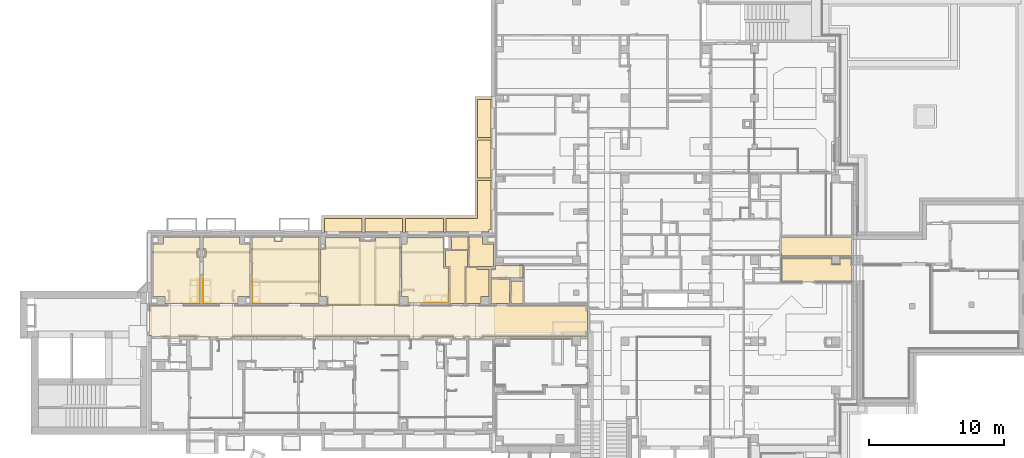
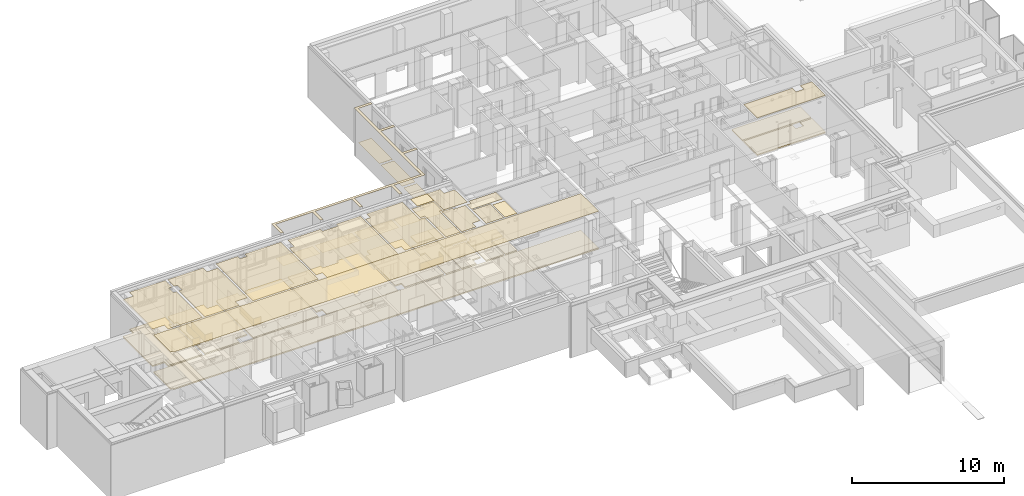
# One storey, part 77 of 84: 40 coverings.
"""IFC4 building model written with IfcOpenShell, lengths in metres."""

from ifc_helpers import new_model, entity, si_unit, converted_unit, derived_unit, frame, frame_2d, origin, origin_with_axes, place, context, subcontext, project, spatial, polyline, rectangle, outline, extrude, material, layer, layer_set, layer_usage, element, save


model = new_model("IFC4")

# Units and contexts
model_context = context("Model", 3, precision=1e-05, world=origin())
body_context = subcontext(model_context, "Body", "Model", "MODEL_VIEW")
ifc_project = project(units=[si_unit("LENGTHUNIT", "METRE"), si_unit("AREAUNIT", "SQUARE_METRE"), si_unit("VOLUMEUNIT", "CUBIC_METRE"), si_unit("MASSUNIT", "GRAM", prefix="KILO"), converted_unit("PLANEANGLEUNIT", "DEGREE", entity("IfcPlaneAngleMeasure", 0.0174532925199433), si_unit("PLANEANGLEUNIT", "RADIAN"), dimensions=[0, 0, 0, 0, 0, 0, 0]), derived_unit("THERMALTRANSMITTANCEUNIT", [(si_unit("POWERUNIT", "WATT"), 1), (si_unit("THERMODYNAMICTEMPERATUREUNIT", "KELVIN"), -1), (si_unit("LENGTHUNIT", "METRE"), -2)]), derived_unit("VOLUMETRICFLOWRATEUNIT", [(si_unit("LENGTHUNIT", "METRE"), 3), (converted_unit("TIMEUNIT", "hour", entity("IfcTimeMeasure", 3600.0), si_unit("TIMEUNIT", "SECOND"), dimensions=[0, 0, 1, 0, 0, 0, 0]), -1), (si_unit("LENGTHUNIT", "METRE"), -1)])], contexts=[model_context])

# Site, building, storey
site_placement = place(None, origin())
site = spatial("IfcSite", under=ifc_project, at=site_placement, Name="3. ASŘ", CompositionType="ELEMENT")
building_placement = place(site_placement, origin())
building = spatial("IfcBuilding", under=site, at=building_placement, Name="Pavilon C", CompositionType="ELEMENT")
storey_placement = place(building_placement, frame((0.0, 0.0, -3.3)))
storey = spatial("IfcBuildingStorey", under=building, at=storey_placement, Name="Půdorys 1.PP", CompositionType="ELEMENT", Elevation=-3.3)

# Coverings
ifc_material_1 = material(Name="KERAMICKÝ OBKLAD")
ifc_layer_1 = layer(ifc_material_1, 0.015)
ifc_layer_set_1 = layer_set([ifc_layer_1])
ifc_layer_usage_1 = layer_usage(ifc_layer_set_1, "AXIS3", "POSITIVE", 0.0)
covering_1_placement = place(storey_placement, frame((2.15, 10.03, 0.85)))
element("IfcCovering", 1, at=covering_1_placement, inside=storey, material=ifc_layer_usage_1, PredefinedType="CLADDING", context=body_context, shape_type="SweptSolid", body=[
    extrude(rectangle(XDim=0.6, YDim=0.57, at=frame_2d((-0.285, -0.3), x_axis=(0.0, -1.0))), frame((0.0, 0.0, 0.0), z_axis=(0.0, -1.0, 0.0), x_axis=(-1.0, 0.0, 0.0)), (0.0, 0.0, 1.0), 0.015),
    extrude(rectangle(XDim=0.6, YDim=1.77, at=frame_2d((-0.885, -0.3), x_axis=(0.0, -1.0))), frame((0.57, 0.0, 0.0), z_axis=(1.0, 0.0, 0.0), x_axis=(0.0, -1.0, 0.0)), (0.0, 0.0, 1.0), 0.015),
])
ifc_material_2 = material(Name="KERAMICKÝ OBKLAD")
ifc_layer_2 = layer(ifc_material_2, 0.015)
ifc_layer_set_2 = layer_set([ifc_layer_2])
ifc_layer_usage_2 = layer_usage(ifc_layer_set_2, "AXIS3", "POSITIVE", 0.0)
covering_2_placement = place(storey_placement, frame((3.13, 10.03, 0.85)))
element("IfcCovering", 2, at=covering_2_placement, inside=storey, material=ifc_layer_usage_2, PredefinedType="CLADDING", context=body_context, shape_type="SweptSolid", body=[
    extrude(rectangle(XDim=0.6, YDim=0.57, at=frame_2d((-0.285, -0.3), x_axis=(0.0, -1.0))), frame((0.57, 0.0, 0.0), z_axis=(0.0, 1.0, 0.0), x_axis=(1.0, 0.0, 0.0)), (0.0, 0.0, 1.0), 0.015),
    extrude(rectangle(XDim=0.6, YDim=1.77, at=frame_2d((-0.885, -0.3), x_axis=(0.0, -1.0))), frame((-4.54747350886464e-16, 0.0, 0.0), z_axis=(1.0, -5.13838814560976e-16, 0.0), x_axis=(-5.13838814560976e-16, -1.0, 0.0)), (0.0, 0.0, 1.0), 0.015),
])
ifc_material_3 = material(Name="KERAMICKÝ OBKLAD")
ifc_layer_3 = layer(ifc_material_3, 0.015)
ifc_layer_set_3 = layer_set([ifc_layer_3])
ifc_layer_usage_3 = layer_usage(ifc_layer_set_3, "AXIS3", "POSITIVE", 0.0)
covering_3_placement = place(storey_placement, frame((6.78000000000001, 10.03, 0.85)))
element("IfcCovering", 3, at=covering_3_placement, inside=storey, material=ifc_layer_usage_3, PredefinedType="CLADDING", context=body_context, shape_type="SweptSolid", body=[
    extrude(rectangle(XDim=0.6, YDim=0.57, at=frame_2d((-0.285, -0.3), x_axis=(0.0, -1.0))), frame((0.57, 0.0, 0.0), z_axis=(0.0, 1.0, 0.0), x_axis=(1.0, 0.0, 0.0)), (0.0, 0.0, 1.0), 0.015),
    extrude(rectangle(XDim=0.6, YDim=1.77, at=frame_2d((-0.885, -0.3), x_axis=(0.0, -1.0))), frame((9.09494701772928e-16, 0.0, 0.0), z_axis=(1.0, -5.13838814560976e-16, 0.0), x_axis=(-5.13838814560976e-16, -1.0, 0.0)), (0.0, 0.0, 1.0), 0.015),
])
ifc_material_4 = material(Name="KERAMICKÝ OBKLAD")
ifc_layer_4 = layer(ifc_material_4, 0.015)
ifc_layer_set_4 = layer_set([ifc_layer_4])
ifc_layer_usage_4 = layer_usage(ifc_layer_set_4, "AXIS3", "POSITIVE", 0.0)
covering_4_placement = place(storey_placement, frame((19.475, 10.055, 0.85)))
element("IfcCovering", 4, at=covering_4_placement, inside=storey, material=ifc_layer_usage_4, PredefinedType="CLADDING", context=body_context, shape_type="SweptSolid", body=[
    extrude(rectangle(XDim=0.6, YDim=0.57, at=frame_2d((-0.285, -0.3), x_axis=(0.0, -1.0))), frame((1.77, 0.57, 0.0), z_axis=(-1.0, 0.0, 0.0), x_axis=(0.0, 1.0, 0.0)), (0.0, 0.0, 1.0), 0.015),
    extrude(rectangle(XDim=0.6, YDim=1.77, at=frame_2d((-0.885, -0.3), x_axis=(0.0, -1.0))), frame((1.77, 0.0, 0.0), z_axis=(0.0, 1.0, 0.0), x_axis=(1.0, 0.0, 0.0)), (0.0, 0.0, 1.0), 0.015),
])
ifc_material_5 = material(Name="SANACE BETONU")
ifc_layer_5 = layer(ifc_material_5, 0.003)
ifc_layer_set_5 = layer_set([ifc_layer_5])
ifc_layer_usage_5 = layer_usage(ifc_layer_set_5, "AXIS3", "POSITIVE", 0.0)
covering_5_placement = place(storey_placement, frame((12.1, 15.305, 0.65)))
element("IfcCovering", 5, at=covering_5_placement, inside=storey, material=ifc_layer_usage_5, PredefinedType="FLOORING", context=body_context, shape_type="SweptSolid", body=[
    extrude(rectangle(XDim=1.0, YDim=2.8, at=frame_2d((1.4, -0.5), x_axis=(0.0, -1.0))), frame((0.0, 1.0, 0.0), z_axis=(0.0, 0.0, 1.0), x_axis=(1.0, 0.0, 0.0)), (0.0, 0.0, 1.0), 0.003),
])
ifc_material_6 = material(Name="SANACE BETONU")
ifc_layer_6 = layer(ifc_material_6, 0.003)
ifc_layer_set_6 = layer_set([ifc_layer_6])
ifc_layer_usage_6 = layer_usage(ifc_layer_set_6, "AXIS3", "POSITIVE", 0.0)
covering_6_placement = place(storey_placement, frame((15.1, 15.305, 0.65)))
element("IfcCovering", 6, at=covering_6_placement, inside=storey, material=ifc_layer_usage_6, PredefinedType="FLOORING", context=body_context, shape_type="SweptSolid", body=[
    extrude(rectangle(XDim=0.999999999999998, YDim=2.8, at=frame_2d((1.4, -0.499999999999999), x_axis=(0.0, -1.0))), frame((1.81898940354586e-15, 0.999999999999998, 0.0), z_axis=(0.0, 0.0, 1.0), x_axis=(1.0, 0.0, 0.0)), (0.0, 0.0, 1.0), 0.003),
])
ifc_material_7 = material(Name="SANACE BETONU")
ifc_layer_7 = layer(ifc_material_7, 0.003)
ifc_layer_set_7 = layer_set([ifc_layer_7])
ifc_layer_usage_7 = layer_usage(ifc_layer_set_7, "AXIS3", "POSITIVE", 0.0)
covering_7_placement = place(storey_placement, frame((18.1, 15.305, 0.65)))
element("IfcCovering", 7, at=covering_7_placement, inside=storey, material=ifc_layer_usage_7, PredefinedType="FLOORING", context=body_context, shape_type="SweptSolid", body=[
    extrude(rectangle(XDim=1.0, YDim=2.8, at=frame_2d((1.4, -0.5), x_axis=(0.0, -1.0))), frame((0.0, 1.0, 0.0), z_axis=(0.0, 0.0, 1.0), x_axis=(1.0, 0.0, 0.0)), (0.0, 0.0, 1.0), 0.003),
])
ifc_material_8 = material(Name="SANACE BETONU")
ifc_layer_8 = layer(ifc_material_8, 0.003)
ifc_layer_set_8 = layer_set([ifc_layer_8])
ifc_layer_usage_8 = layer_usage(ifc_layer_set_8, "AXIS3", "POSITIVE", 0.0)
covering_8_placement = place(storey_placement, frame((21.1, 15.305, 0.65)))
element("IfcCovering", 8, at=covering_8_placement, inside=storey, material=ifc_layer_usage_8, PredefinedType="FLOORING", context=body_context, shape_type="SweptSolid", body=[
    extrude(outline(polyline([(0.0, 0.999999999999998), (0.0, 0.0), (3.175, 0.0), (3.175, 0.17), (3.345, 0.17), (3.345, 3.795), (2.34500000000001, 3.795), (2.34500000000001, 0.999999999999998), (0.0, 0.999999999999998)])), frame((0.0, 1.81898940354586e-15, 0.0), z_axis=(0.0, 0.0, 1.0), x_axis=(1.0, 0.0, 0.0)), (0.0, 0.0, 1.0), 0.003),
])
ifc_material_9 = material(Name="SANACE BETONU")
ifc_layer_9 = layer(ifc_material_9, 0.003)
ifc_layer_set_9 = layer_set([ifc_layer_9])
ifc_layer_usage_9 = layer_usage(ifc_layer_set_9, "AXIS3", "POSITIVE", 0.0)
covering_9_placement = place(storey_placement, frame((23.445, 19.3, 0.65)))
element("IfcCovering", 9, at=covering_9_placement, inside=storey, material=ifc_layer_usage_9, PredefinedType="FLOORING", context=body_context, shape_type="SweptSolid", body=[
    extrude(rectangle(XDim=2.8, YDim=0.999999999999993, at=frame_2d((0.499999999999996, -1.4), x_axis=(0.0, -1.0))), frame((0.0, 2.8, 0.0), z_axis=(0.0, 0.0, 1.0), x_axis=(1.0, 0.0, 0.0)), (0.0, 0.0, 1.0), 0.003),
])
ifc_material_10 = material(Name="SANACE BETONU")
ifc_layer_10 = layer(ifc_material_10, 0.003)
ifc_layer_set_10 = layer_set([ifc_layer_10])
ifc_layer_usage_10 = layer_usage(ifc_layer_set_10, "AXIS3", "POSITIVE", 0.0)
covering_10_placement = place(storey_placement, frame((23.445, 22.3, 0.65)))
element("IfcCovering", 10, at=covering_10_placement, inside=storey, material=ifc_layer_usage_10, PredefinedType="FLOORING", context=body_context, shape_type="SweptSolid", body=[
    extrude(rectangle(XDim=2.8, YDim=0.999999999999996, at=frame_2d((0.499999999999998, -1.4), x_axis=(0.0, -1.0))), frame((3.63797880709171e-15, 2.8, 0.0), z_axis=(0.0, 0.0, 1.0), x_axis=(1.0, 0.0, 0.0)), (0.0, 0.0, 1.0), 0.003),
])
ifc_material_11 = material(Name="SANACE BETONU")
ifc_layer_11 = layer(ifc_material_11, 0.003)
ifc_layer_set_11 = layer_set([ifc_layer_11])
ifc_layer_usage_11 = layer_usage(ifc_layer_set_11, "AXIS3", "POSITIVE", 0.0)
covering_11_placement = place(storey_placement, frame((11.9, 15.245, 3.38)))
element("IfcCovering", 11, at=covering_11_placement, inside=storey, material=ifc_layer_usage_11, PredefinedType="FLOORING", context=body_context, shape_type="SweptSolid", body=[
    extrude(outline(polyline([(0.0, 3.63797880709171e-15), (0.2, 3.63797880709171e-15), (0.2, 1.06), (3.0, 1.06), (3.0, 1.81898940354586e-15), (3.2, 1.81898940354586e-15), (3.2, 1.06), (6.0, 1.06), (6.0, 1.81898940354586e-15), (6.2, 1.81898940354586e-15), (6.2, 1.06), (9.0, 1.06), (9.0, 0.0), (9.2, 0.0), (9.2, 1.06), (11.545, 1.06), (11.545, 3.855), (12.605, 3.855), (12.605, 4.055), (11.545, 4.055), (11.545, 6.855), (12.605, 6.855), (12.605, 7.055), (11.545, 7.055), (11.545, 9.855), (12.605, 9.855), (12.605, 10.055), (11.345, 10.055), (11.345, 1.26), (0.0, 1.26), (0.0, 3.63797880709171e-15)])), frame((0.0, 1.81898940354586e-15, 0.0), z_axis=(0.0, 0.0, 1.0), x_axis=(1.0, 0.0, 0.0)), (0.0, 0.0, 1.0), 0.003),
])

# Space
space_1_placement = place(storey_placement, frame((-0.874999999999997, 7.525, -0.1)))
space_1 = spatial("IfcSpace", under=storey, at=space_1_placement, Name="-1.34", CompositionType="ELEMENT")

# Coverings
ifc_material_12 = material()
ifc_layer_12 = layer(ifc_material_12, 0.095)
ifc_material_13 = material(Name="PŘÍRODNÍ LINOLEUM")
ifc_layer_13 = layer(ifc_material_13, 0.005)
ifc_layer_set_12 = layer_set([ifc_layer_12, ifc_layer_13])
ifc_layer_usage_12 = layer_usage(ifc_layer_set_12, "AXIS3", "POSITIVE", 0.0)
covering_12_placement = place(space_1_placement, frame((2.27373675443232e-16, -9.09494701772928e-16, 0.0)))
element("IfcCovering", 12, at=covering_12_placement, inside=space_1, material=ifc_layer_usage_12, PredefinedType="FLOORING", context=body_context, shape_type="SweptSolid", body=[
    extrude(outline(polyline([(0.0, 2.35), (0.0, 0.100000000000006), (0.175, 0.100000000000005), (0.175, 7.27595761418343e-15), (32.45, 0.0), (32.45, 2.35), (0.0, 2.35)])), frame((0.0, 9.09494701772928e-16, 0.0), z_axis=(0.0, 0.0, 1.0), x_axis=(1.0, 0.0, 0.0)), (0.0, 0.0, 1.0), 0.1),
])
ifc_material_14 = material(Name="RASTR 1")
ifc_layer_14 = layer(ifc_material_14, 0.03)
ifc_layer_set_13 = layer_set([ifc_layer_14])
ifc_layer_usage_13 = layer_usage(ifc_layer_set_13, "AXIS3", "POSITIVE", 0.0)
covering_13_placement = place(space_1_placement, frame((2.27373675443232e-16, -9.09494701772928e-16, 3.05)))
element("IfcCovering", 13, at=covering_13_placement, inside=space_1, material=ifc_layer_usage_13, PredefinedType="CEILING", context=body_context, shape_type="SweptSolid", body=[
    extrude(outline(polyline([(0.0, 2.25), (0.0, 0.0), (32.45, 0.0), (32.45, 2.35), (0.175, 2.35), (0.175, 2.25), (0.0, 2.25)])), frame((0.0, 2.35, 0.0), z_axis=(0.0, 0.0, -1.0), x_axis=(1.0, 0.0, 0.0)), (0.0, 0.0, 1.0), 0.03),
])

# Space
space_2_placement = place(storey_placement, frame((-0.599999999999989, 10.0, -0.1)))
space_2 = spatial("IfcSpace", under=storey, at=space_2_placement, Name="-1.35", CompositionType="ELEMENT")

# Coverings
ifc_material_15 = material()
ifc_layer_15 = layer(ifc_material_15, 0.095)
ifc_material_16 = material(Name="ELEKTROSTATICKÝ VINYL")
ifc_layer_16 = layer(ifc_material_16, 0.005)
ifc_layer_set_14 = layer_set([ifc_layer_15, ifc_layer_16])
ifc_layer_usage_14 = layer_usage(ifc_layer_set_14, "AXIS3", "POSITIVE", 0.0)
covering_14_placement = place(space_2_placement, origin())
element("IfcCovering", 14, at=covering_14_placement, inside=space_2, material=ifc_layer_usage_14, PredefinedType="FLOORING", context=body_context, shape_type="SweptSolid", body=[
    extrude(outline(polyline([(0.799999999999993, 4.9), (0.799999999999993, 4.4), (2.27373675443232e-16, 4.4), (0.0, 0.500000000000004), (0.9, 0.500000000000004), (0.9, 0.0), (3.49999999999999, 0.0), (3.49999999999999, 3.43), (3.27499999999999, 3.43), (3.27499999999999, 4.03), (3.49999999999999, 4.03), (3.49999999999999, 4.9), (0.799999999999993, 4.9)])), origin_with_axes(), (0.0, 0.0, 1.0), 0.1),
])
ifc_material_17 = material(Name="RASTR 3")
ifc_layer_17 = layer(ifc_material_17, 0.03)
ifc_layer_set_15 = layer_set([ifc_layer_17])
ifc_layer_usage_15 = layer_usage(ifc_layer_set_15, "AXIS3", "POSITIVE", 0.0)
covering_15_placement = place(space_2_placement, frame((0.0, 0.0, 3.05)))
element("IfcCovering", 15, at=covering_15_placement, inside=space_2, material=ifc_layer_usage_15, PredefinedType="CEILING", context=body_context, shape_type="SweptSolid", body=[
    extrude(outline(polyline([(0.799999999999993, 0.5), (0.799999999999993, 0.0), (3.49999999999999, 0.0), (3.49999999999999, 0.870000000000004), (3.27499999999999, 0.870000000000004), (3.27499999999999, 1.47), (3.49999999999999, 1.47), (3.49999999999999, 4.9), (0.9, 4.9), (0.9, 4.4), (0.0, 4.4), (2.27373675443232e-16, 0.5), (0.799999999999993, 0.5)])), frame((0.0, 4.9, 0.0), z_axis=(0.0, 0.0, -1.0), x_axis=(1.0, 0.0, 0.0)), (0.0, 0.0, 1.0), 0.03),
])

# Space
space_3_placement = place(storey_placement, frame((17.825, 10.025, -0.1)))
space_3 = spatial("IfcSpace", under=storey, at=space_3_placement, Name="-1.39", CompositionType="ELEMENT")

# Coverings
ifc_material_18 = material()
ifc_layer_18 = layer(ifc_material_18, 0.095)
ifc_material_19 = material(Name="ELEKTROSTATICKÝ VINYL")
ifc_layer_19 = layer(ifc_material_19, 0.005)
ifc_layer_set_16 = layer_set([ifc_layer_18, ifc_layer_19])
ifc_layer_usage_16 = layer_usage(ifc_layer_set_16, "AXIS3", "POSITIVE", 0.0)
covering_16_placement = place(space_3_placement, origin())
element("IfcCovering", 16, at=covering_16_placement, inside=space_3, material=ifc_layer_usage_16, PredefinedType="FLOORING", context=body_context, shape_type="SweptSolid", body=[
    extrude(outline(polyline([(0.375, 4.37500000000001), (0.0, 4.37500000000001), (0.0, 0.475), (0.475000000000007, 0.475), (0.475000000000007, 0.0), (3.45, 0.0), (3.45, 2.6), (3.075, 2.6), (3.075, 4.85000000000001), (0.375, 4.85000000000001), (0.375, 4.37500000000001)])), origin_with_axes(), (0.0, 0.0, 1.0), 0.1),
])
ifc_material_20 = material(Name="RASTR 3")
ifc_layer_20 = layer(ifc_material_20, 0.03)
ifc_layer_set_17 = layer_set([ifc_layer_20])
ifc_layer_usage_17 = layer_usage(ifc_layer_set_17, "AXIS3", "POSITIVE", 0.0)
covering_17_placement = place(space_3_placement, frame((0.0, 0.0, 3.05)))
element("IfcCovering", 17, at=covering_17_placement, inside=space_3, material=ifc_layer_usage_17, PredefinedType="CEILING", context=body_context, shape_type="SweptSolid", body=[
    extrude(outline(polyline([(0.0, 0.475), (0.375, 0.475), (0.375, 0.0), (3.075, 0.0), (3.075, 2.25000000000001), (3.45, 2.25000000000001), (3.45, 4.85000000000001), (0.475000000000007, 4.85000000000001), (0.475000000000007, 4.37500000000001), (0.0, 4.37500000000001), (0.0, 0.475)])), frame((0.0, 4.85000000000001, 0.0), z_axis=(0.0, 0.0, -1.0), x_axis=(1.0, 0.0, 0.0)), (0.0, 0.0, 1.0), 0.03),
])

# Space
space_4_placement = place(storey_placement, frame((21.05, 10.0, -0.1)))
space_4 = spatial("IfcSpace", under=storey, at=space_4_placement, Name="-1.40", CompositionType="ELEMENT")

# Coverings
ifc_material_21 = material()
ifc_layer_21 = layer(ifc_material_21, 0.085)
ifc_material_22 = material(Name="KERAMICKÁ DLAŽBA")
ifc_layer_22 = layer(ifc_material_22, 0.015)
ifc_layer_set_18 = layer_set([ifc_layer_21, ifc_layer_22])
ifc_layer_usage_18 = layer_usage(ifc_layer_set_18, "AXIS3", "POSITIVE", 0.0)
covering_18_placement = place(space_4_placement, origin())
element("IfcCovering", 18, at=covering_18_placement, inside=space_4, material=ifc_layer_usage_18, PredefinedType="FLOORING", context=body_context, shape_type="SweptSolid", body=[
    extrude(outline(polyline([(0.35, 2.75), (0.35, 0.0), (1.45, 0.0), (1.45, 2.75), (1.65, 2.75), (1.65, 3.9), (0.0, 3.9), (0.0, 2.75), (0.35, 2.75)])), origin_with_axes(), (0.0, 0.0, 1.0), 0.1),
])
ifc_material_23 = material(Name="RASTR 2")
ifc_layer_23 = layer(ifc_material_23, 0.03)
ifc_layer_set_19 = layer_set([ifc_layer_23])
ifc_layer_usage_19 = layer_usage(ifc_layer_set_19, "AXIS3", "POSITIVE", 0.0)
covering_19_placement = place(space_4_placement, frame((0.0, 0.0, 3.05)))
element("IfcCovering", 19, at=covering_19_placement, inside=space_4, material=ifc_layer_usage_19, PredefinedType="CEILING", context=body_context, shape_type="SweptSolid", body=[
    extrude(outline(polyline([(0.35, 3.9), (0.35, 1.15), (0.0, 1.15), (0.0, 0.0), (1.65, 0.0), (1.65, 1.15), (1.45, 1.15), (1.45, 3.9), (0.35, 3.9)])), frame((0.0, 3.9, 0.0), z_axis=(0.0, 0.0, -1.0), x_axis=(1.0, 0.0, 0.0)), (0.0, 0.0, 1.0), 0.03),
])

# Space
space_5_placement = place(storey_placement, frame((21.525, 14.0, -0.1)))
space_5 = spatial("IfcSpace", under=storey, at=space_5_placement, Name="-1.41", CompositionType="ELEMENT")

# Coverings
ifc_material_24 = material()
ifc_layer_24 = layer(ifc_material_24, 0.085)
ifc_material_25 = material(Name="KERAMICKÁ DLAŽBA")
ifc_layer_25 = layer(ifc_material_25, 0.015)
ifc_layer_set_20 = layer_set([ifc_layer_24, ifc_layer_25])
ifc_layer_usage_20 = layer_usage(ifc_layer_set_20, "AXIS3", "POSITIVE", 0.0)
covering_20_placement = place(space_5_placement, origin())
element("IfcCovering", 20, at=covering_20_placement, inside=space_5, material=ifc_layer_usage_20, PredefinedType="FLOORING", context=body_context, shape_type="SweptSolid", body=[
    extrude(rectangle(XDim=0.9, YDim=1.275, at=frame_2d((0.6375, -0.45), x_axis=(0.0, -1.0))), frame((0.0, 0.9, 0.0), z_axis=(0.0, 0.0, 1.0), x_axis=(1.0, 0.0, 0.0)), (0.0, 0.0, 1.0), 0.1),
])
ifc_material_26 = material(Name="RASTR 2")
ifc_layer_26 = layer(ifc_material_26, 0.03)
ifc_layer_set_21 = layer_set([ifc_layer_26])
ifc_layer_usage_21 = layer_usage(ifc_layer_set_21, "AXIS3", "POSITIVE", 0.0)
covering_21_placement = place(space_5_placement, frame((0.0, 0.0, 3.05)))
element("IfcCovering", 21, at=covering_21_placement, inside=space_5, material=ifc_layer_usage_21, PredefinedType="CEILING", context=body_context, shape_type="SweptSolid", body=[
    extrude(rectangle(XDim=0.9, YDim=1.275, at=frame_2d((0.6375, -0.45), x_axis=(0.0, -1.0))), frame((0.0, 0.0, 0.0), z_axis=(0.0, 0.0, -1.0), x_axis=(1.0, 0.0, 0.0)), (0.0, 0.0, 1.0), 0.03),
])

# Space
space_6_placement = place(storey_placement, frame((22.6, 10.0, -0.1)))
space_6 = spatial("IfcSpace", under=storey, at=space_6_placement, Name="-1.42", CompositionType="ELEMENT")

# Coverings
ifc_material_27 = material()
ifc_layer_27 = layer(ifc_material_27, 0.085)
ifc_material_28 = material(Name="KERAMICKÁ DLAŽBA")
ifc_layer_28 = layer(ifc_material_28, 0.015)
ifc_layer_set_22 = layer_set([ifc_layer_27, ifc_layer_28])
ifc_layer_usage_22 = layer_usage(ifc_layer_set_22, "AXIS3", "POSITIVE", 0.0)
covering_22_placement = place(space_6_placement, origin())
element("IfcCovering", 22, at=covering_22_placement, inside=space_6, material=ifc_layer_usage_22, PredefinedType="FLOORING", context=body_context, shape_type="SweptSolid", body=[
    extrude(outline(polyline([(0.8, 2.65), (0.0, 2.65), (0.0, 0.0), (1.1, 0.0), (1.1, 0.5), (1.7, 0.5), (1.7, 2.5), (0.8, 2.5), (0.8, 2.65)])), origin_with_axes(), (0.0, 0.0, 1.0), 0.1),
])
ifc_material_29 = material(Name="RASTR 2")
ifc_layer_29 = layer(ifc_material_29, 0.03)
ifc_layer_set_23 = layer_set([ifc_layer_29])
ifc_layer_usage_23 = layer_usage(ifc_layer_set_23, "AXIS3", "POSITIVE", 0.0)
covering_23_placement = place(space_6_placement, frame((0.0, 0.0, 3.05)))
element("IfcCovering", 23, at=covering_23_placement, inside=space_6, material=ifc_layer_usage_23, PredefinedType="CEILING", context=body_context, shape_type="SweptSolid", body=[
    extrude(outline(polyline([(0.0, 0.0), (0.8, 0.0), (0.8, 0.15), (1.7, 0.15), (1.7, 2.15), (1.1, 2.15), (1.1, 2.65), (0.0, 2.65), (0.0, 0.0)])), frame((0.0, 2.65, 0.0), z_axis=(0.0, 0.0, -1.0), x_axis=(1.0, 0.0, 0.0)), (0.0, 0.0, 1.0), 0.03),
])

# Space
space_7_placement = place(storey_placement, frame((24.45, 10.0, -0.1)))
space_7 = spatial("IfcSpace", under=storey, at=space_7_placement, Name="-1.43", CompositionType="ELEMENT")

# Coverings
ifc_material_30 = material()
ifc_layer_30 = layer(ifc_material_30, 0.085)
ifc_material_31 = material(Name="KERAMICKÁ DLAŽBA")
ifc_layer_31 = layer(ifc_material_31, 0.015)
ifc_layer_set_24 = layer_set([ifc_layer_30, ifc_layer_31])
ifc_layer_usage_24 = layer_usage(ifc_layer_set_24, "AXIS3", "POSITIVE", 0.0)
covering_24_placement = place(space_7_placement, origin())
element("IfcCovering", 24, at=covering_24_placement, inside=space_7, material=ifc_layer_usage_24, PredefinedType="FLOORING", context=body_context, shape_type="SweptSolid", body=[
    extrude(rectangle(XDim=1.35, YDim=1.8, at=frame_2d((-0.675, -0.9), x_axis=(-1.0, 0.0))), frame((1.35, 1.8, 0.0), z_axis=(0.0, 0.0, 1.0), x_axis=(1.0, 0.0, 0.0)), (0.0, 0.0, 1.0), 0.1),
])
ifc_material_32 = material(Name="RASTR 2")
ifc_layer_32 = layer(ifc_material_32, 0.03)
ifc_layer_set_25 = layer_set([ifc_layer_32])
ifc_layer_usage_25 = layer_usage(ifc_layer_set_25, "AXIS3", "POSITIVE", 0.0)
covering_25_placement = place(space_7_placement, frame((0.0, 0.0, 3.05)))
element("IfcCovering", 25, at=covering_25_placement, inside=space_7, material=ifc_layer_usage_25, PredefinedType="CEILING", context=body_context, shape_type="SweptSolid", body=[
    extrude(rectangle(XDim=1.35, YDim=1.8, at=frame_2d((0.675, 0.9), x_axis=(1.0, 0.0))), frame((0.0, 1.8, 0.0), z_axis=(0.0, 0.0, -1.0), x_axis=(1.0, 0.0, 0.0)), (0.0, 0.0, 1.0), 0.03),
])

# Space
space_8_placement = place(storey_placement, frame((25.9, 10.0, -0.1)))
space_8 = spatial("IfcSpace", under=storey, at=space_8_placement, Name="-1.44", CompositionType="ELEMENT")

# Coverings
ifc_material_33 = material()
ifc_layer_33 = layer(ifc_material_33, 0.085)
ifc_material_34 = material(Name="KERAMICKÁ DLAŽBA")
ifc_layer_34 = layer(ifc_material_34, 0.015)
ifc_layer_set_26 = layer_set([ifc_layer_33, ifc_layer_34])
ifc_layer_usage_26 = layer_usage(ifc_layer_set_26, "AXIS3", "POSITIVE", 0.0)
covering_26_placement = place(space_8_placement, origin())
element("IfcCovering", 26, at=covering_26_placement, inside=space_8, material=ifc_layer_usage_26, PredefinedType="FLOORING", context=body_context, shape_type="SweptSolid", body=[
    extrude(rectangle(XDim=0.9, YDim=1.65, at=frame_2d((-0.45, -0.825), x_axis=(-1.0, 0.0))), frame((0.9, 1.65, 0.0), z_axis=(0.0, 0.0, 1.0), x_axis=(1.0, 0.0, 0.0)), (0.0, 0.0, 1.0), 0.1),
])
ifc_material_35 = material(Name="RASTR 2")
ifc_layer_35 = layer(ifc_material_35, 0.03)
ifc_layer_set_27 = layer_set([ifc_layer_35])
ifc_layer_usage_27 = layer_usage(ifc_layer_set_27, "AXIS3", "POSITIVE", 0.0)
covering_27_placement = place(space_8_placement, frame((0.0, 0.0, 3.05)))
element("IfcCovering", 27, at=covering_27_placement, inside=space_8, material=ifc_layer_usage_27, PredefinedType="CEILING", context=body_context, shape_type="SweptSolid", body=[
    extrude(rectangle(XDim=0.9, YDim=1.65, at=frame_2d((0.45, 0.825), x_axis=(1.0, 0.0))), frame((0.0, 1.65, 0.0), z_axis=(0.0, 0.0, -1.0), x_axis=(1.0, 0.0, 0.0)), (0.0, 0.0, 1.0), 0.03),
])

# Space
space_9_placement = place(storey_placement, frame((24.45, 11.9, -0.1)))
space_9 = spatial("IfcSpace", under=storey, at=space_9_placement, Name="-1.45", CompositionType="ELEMENT")

# Coverings
ifc_material_36 = material()
ifc_layer_36 = layer(ifc_material_36, 0.085)
ifc_material_37 = material(Name="KERAMICKÁ DLAŽBA")
ifc_layer_37 = layer(ifc_material_37, 0.015)
ifc_layer_set_28 = layer_set([ifc_layer_36, ifc_layer_37])
ifc_layer_usage_28 = layer_usage(ifc_layer_set_28, "AXIS3", "POSITIVE", 0.0)
covering_28_placement = place(space_9_placement, origin())
element("IfcCovering", 28, at=covering_28_placement, inside=space_9, material=ifc_layer_usage_28, PredefinedType="FLOORING", context=body_context, shape_type="SweptSolid", body=[
    extrude(outline(polyline([(0.300000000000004, 0.6), (0.0, 0.6), (0.0, 0.0), (2.35, 0.0), (2.35, 0.9), (0.300000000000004, 0.899999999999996), (0.300000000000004, 0.6)])), origin_with_axes(), (0.0, 0.0, 1.0), 0.1),
])
ifc_material_38 = material(Name="RASTR 2")
ifc_layer_38 = layer(ifc_material_38, 0.03)
ifc_layer_set_29 = layer_set([ifc_layer_38])
ifc_layer_usage_29 = layer_usage(ifc_layer_set_29, "AXIS3", "POSITIVE", 0.0)
covering_29_placement = place(space_9_placement, frame((0.0, 0.0, 3.05)))
element("IfcCovering", 29, at=covering_29_placement, inside=space_9, material=ifc_layer_usage_29, PredefinedType="CEILING", context=body_context, shape_type="SweptSolid", body=[
    extrude(outline(polyline([(0.0, 0.3), (0.300000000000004, 0.3), (0.300000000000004, 3.63797880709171e-15), (2.35, 0.0), (2.35, 0.9), (0.0, 0.9), (0.0, 0.3)])), frame((0.0, 0.9, 0.0), z_axis=(0.0, 0.0, -1.0), x_axis=(1.0, 0.0, 0.0)), (0.0, 0.0, 1.0), 0.03),
])

# Space
space_10_placement = place(storey_placement, frame((22.8, 12.75, -0.1)))
space_10 = spatial("IfcSpace", under=storey, at=space_10_placement, Name="-1.41", CompositionType="ELEMENT")

# Coverings
ifc_material_39 = material()
ifc_layer_39 = layer(ifc_material_39, 0.085)
ifc_material_40 = material(Name="KERAMICKÁ DLAŽBA")
ifc_layer_40 = layer(ifc_material_40, 0.015)
ifc_layer_set_30 = layer_set([ifc_layer_39, ifc_layer_40])
ifc_layer_usage_30 = layer_usage(ifc_layer_set_30, "AXIS3", "POSITIVE", 0.0)
covering_30_placement = place(space_10_placement, frame((3.63797880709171e-15, 0.0, 0.0)))
element("IfcCovering", 30, at=covering_30_placement, inside=space_10, material=ifc_layer_usage_30, PredefinedType="FLOORING", context=body_context, shape_type="SweptSolid", body=[
    extrude(outline(polyline([(1.0, 2.15), (0.0, 2.15), (0.0, 0.0), (1.8, 0.0), (1.8, 1.65000000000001), (1.0, 1.65000000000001), (1.0, 2.15)])), frame((-3.63797880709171e-15, 0.0, 0.0), z_axis=(0.0, 0.0, 1.0), x_axis=(1.0, 0.0, 0.0)), (0.0, 0.0, 1.0), 0.1),
])
ifc_material_41 = material(Name="RASTR 2")
ifc_layer_41 = layer(ifc_material_41, 0.03)
ifc_layer_set_31 = layer_set([ifc_layer_41])
ifc_layer_usage_31 = layer_usage(ifc_layer_set_31, "AXIS3", "POSITIVE", 0.0)
covering_31_placement = place(space_10_placement, frame((3.63797880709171e-15, 0.0, 3.05)))
element("IfcCovering", 31, at=covering_31_placement, inside=space_10, material=ifc_layer_usage_31, PredefinedType="CEILING", context=body_context, shape_type="SweptSolid", body=[
    extrude(outline(polyline([(0.0, 0.0), (1.0, 0.0), (1.0, 0.499999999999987), (1.8, 0.499999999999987), (1.8, 2.15), (0.0, 2.15), (0.0, 0.0)])), frame((-3.63797880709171e-15, 2.15, 0.0), z_axis=(0.0, 0.0, -1.0), x_axis=(1.0, 0.0, 0.0)), (0.0, 0.0, 1.0), 0.03),
])

# Space
space_11_placement = place(storey_placement, frame((11.825, 9.875, -0.1)))
space_11 = spatial("IfcSpace", under=storey, at=space_11_placement, Name="-1.38", CompositionType="ELEMENT")

# Coverings
ifc_material_42 = material()
ifc_layer_42 = layer(ifc_material_42, 0.095)
ifc_material_43 = material(Name="PŘÍRODNÍ LINOLEUM")
ifc_layer_43 = layer(ifc_material_43, 0.005)
ifc_layer_set_32 = layer_set([ifc_layer_42, ifc_layer_43])
ifc_layer_usage_32 = layer_usage(ifc_layer_set_32, "AXIS3", "POSITIVE", 0.0)
covering_32_placement = place(space_11_placement, origin())
element("IfcCovering", 32, at=covering_32_placement, inside=space_11, material=ifc_layer_usage_32, PredefinedType="FLOORING", context=body_context, shape_type="SweptSolid", body=[
    extrude(outline(polyline([(2.875, 4.75), (2.875, 5.0), (0.374999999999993, 5.0), (0.374999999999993, 4.15000000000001), (0.0, 4.15000000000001), (0.0, 0.625), (0.475, 0.625), (0.475, 0.0), (5.875, 0.0), (5.875, 5.0), (4.075, 5.0), (4.075, 4.75), (2.875, 4.75)])), origin_with_axes(), (0.0, 0.0, 1.0), 0.1),
])
ifc_material_44 = material(Name="RASTR 1")
ifc_layer_44 = layer(ifc_material_44, 0.03)
ifc_layer_set_33 = layer_set([ifc_layer_44])
ifc_layer_usage_33 = layer_usage(ifc_layer_set_33, "AXIS3", "POSITIVE", 0.0)
covering_33_placement = place(space_11_placement, frame((0.0, 0.0, 3.05)))
element("IfcCovering", 33, at=covering_33_placement, inside=space_11, material=ifc_layer_usage_33, PredefinedType="CEILING", context=body_context, shape_type="SweptSolid", body=[
    extrude(outline(polyline([(2.875, 0.0), (2.875, 0.25), (4.075, 0.25), (4.075, 0.0), (5.875, 0.0), (5.875, 5.0), (0.475, 5.0), (0.475, 4.375), (0.0, 4.375), (0.0, 0.849999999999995), (0.374999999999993, 0.849999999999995), (0.374999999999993, 0.0), (2.875, 0.0)])), frame((0.0, 5.0, 0.0), z_axis=(0.0, 0.0, -1.0), x_axis=(1.0, 0.0, 0.0)), (0.0, 0.0, 1.0), 0.03),
])

# Space
space_12_placement = place(storey_placement, frame((3.09999999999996, 10.0, -0.1)))
space_12 = spatial("IfcSpace", under=storey, at=space_12_placement, Name="-1.36", CompositionType="ELEMENT")

# Coverings
ifc_material_45 = material()
ifc_layer_45 = layer(ifc_material_45, 0.095)
ifc_material_46 = material(Name="ELEKTROSTATICKÝ VINYL")
ifc_layer_46 = layer(ifc_material_46, 0.005)
ifc_layer_set_34 = layer_set([ifc_layer_45, ifc_layer_46])
ifc_layer_usage_34 = layer_usage(ifc_layer_set_34, "AXIS3", "POSITIVE", 0.0)
covering_34_placement = place(space_12_placement, frame((-4.54747350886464e-16, 0.0, 0.0)))
element("IfcCovering", 34, at=covering_34_placement, inside=space_12, material=ifc_layer_usage_34, PredefinedType="FLOORING", context=body_context, shape_type="SweptSolid", body=[
    extrude(outline(polyline([(2.70000000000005, 4.9), (4.50199877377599e-14, 4.9), (4.50199877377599e-14, 4.03), (0.22500000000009, 4.03), (0.225000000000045, 3.43), (0.0, 3.43), (4.4110493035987e-14, 0.0), (2.60000000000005, 0.0), (2.60000000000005, 0.5), (3.50000000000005, 0.5), (3.50000000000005, 4.4), (2.70000000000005, 4.4), (2.70000000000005, 4.9)])), frame((4.54747350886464e-16, 0.0, 0.0), z_axis=(0.0, 0.0, 1.0), x_axis=(1.0, 0.0, 0.0)), (0.0, 0.0, 1.0), 0.1),
])
ifc_material_47 = material(Name="RASTR 3")
ifc_layer_47 = layer(ifc_material_47, 0.03)
ifc_layer_set_35 = layer_set([ifc_layer_47])
ifc_layer_usage_35 = layer_usage(ifc_layer_set_35, "AXIS3", "POSITIVE", 0.0)
covering_35_placement = place(space_12_placement, frame((-4.54747350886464e-16, 0.0, 3.05)))
element("IfcCovering", 35, at=covering_35_placement, inside=space_12, material=ifc_layer_usage_35, PredefinedType="CEILING", context=body_context, shape_type="SweptSolid", body=[
    extrude(outline(polyline([(4.50199877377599e-14, 0.0), (2.70000000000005, 0.0), (2.70000000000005, 0.5), (3.50000000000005, 0.5), (3.50000000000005, 4.4), (2.60000000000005, 4.4), (2.60000000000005, 4.9), (4.4110493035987e-14, 4.9), (0.0, 1.47), (0.225000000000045, 1.47), (0.22500000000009, 0.870000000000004), (4.50199877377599e-14, 0.870000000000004), (4.50199877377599e-14, 0.0)])), frame((4.54747350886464e-16, 4.9, 0.0), z_axis=(0.0, 0.0, -1.0), x_axis=(1.0, 0.0, 0.0)), (0.0, 0.0, 1.0), 0.03),
])

# Space
space_13_placement = place(storey_placement, frame((6.75, 10.0, -0.1)))
space_13 = spatial("IfcSpace", under=storey, at=space_13_placement, Name="-1.37", CompositionType="ELEMENT")

# Coverings
ifc_material_48 = material()
ifc_layer_48 = layer(ifc_material_48, 0.095)
ifc_material_49 = material(Name="ELEKTROSTATICKÝ VINYL")
ifc_layer_49 = layer(ifc_material_49, 0.005)
ifc_layer_set_36 = layer_set([ifc_layer_48, ifc_layer_49])
ifc_layer_usage_36 = layer_usage(ifc_layer_set_36, "AXIS3", "POSITIVE", 0.0)
covering_36_placement = place(space_13_placement, frame((-9.09494701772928e-16, 0.0, 0.0)))
element("IfcCovering", 36, at=covering_36_placement, inside=space_13, material=ifc_layer_usage_36, PredefinedType="FLOORING", context=body_context, shape_type="SweptSolid", body=[
    extrude(outline(polyline([(1.65000000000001, 4.9), (0.0, 4.9), (0.0, 0.0), (4.95000000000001, 0.0), (4.95000000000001, 4.9), (2.20000000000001, 4.9), (2.20000000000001, 4.59999999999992), (1.65000000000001, 4.59999999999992), (1.65000000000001, 4.9)])), frame((9.09494701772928e-16, 0.0, 0.0), z_axis=(0.0, 0.0, 1.0), x_axis=(1.0, 0.0, 0.0)), (0.0, 0.0, 1.0), 0.1),
])
ifc_material_50 = material(Name="RASTR 3")
ifc_layer_50 = layer(ifc_material_50, 0.03)
ifc_layer_set_37 = layer_set([ifc_layer_50])
ifc_layer_usage_37 = layer_usage(ifc_layer_set_37, "AXIS3", "POSITIVE", 0.0)
covering_37_placement = place(space_13_placement, frame((-9.09494701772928e-16, 0.0, 3.05)))
element("IfcCovering", 37, at=covering_37_placement, inside=space_13, material=ifc_layer_usage_37, PredefinedType="CEILING", context=body_context, shape_type="SweptSolid", body=[
    extrude(outline(polyline([(0.0, 0.0), (1.65000000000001, 0.0), (1.65000000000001, 0.300000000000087), (2.20000000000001, 0.300000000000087), (2.20000000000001, 0.0), (4.95000000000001, 0.0), (4.95000000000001, 4.9), (0.0, 4.9), (0.0, 0.0)])), frame((9.09494701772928e-16, 4.9, 0.0), z_axis=(0.0, 0.0, -1.0), x_axis=(1.0, 0.0, 0.0)), (0.0, 0.0, 1.0), 0.03),
])

# Space
space_14_placement = place(storey_placement, frame((45.95, 13.5, -0.1)))
space_14 = spatial("IfcSpace", under=storey, at=space_14_placement, Name="-1.58", CompositionType="ELEMENT")

# Covering
ifc_material_51 = material()
ifc_layer_51 = layer(ifc_material_51, 0.095)
ifc_material_52 = material(Name="PŘÍRODNÍ LINOLEUM")
ifc_layer_52 = layer(ifc_material_52, 0.005)
ifc_layer_set_38 = layer_set([ifc_layer_51, ifc_layer_52])
ifc_layer_usage_38 = layer_usage(ifc_layer_set_38, "AXIS3", "POSITIVE", 0.0)
covering_38_placement = place(space_14_placement, origin())
element("IfcCovering", 38, at=covering_38_placement, inside=space_14, material=ifc_layer_usage_38, Name="I.P1", PredefinedType="FLOORING", context=body_context, shape_type="SweptSolid", body=[
    extrude(rectangle(XDim=5.2, YDim=1.425, at=frame_2d((2.6, 0.7125), x_axis=(1.0, 0.0))), origin_with_axes(), (0.0, 0.0, 1.0), 0.1),
])

# Space
space_15_placement = place(storey_placement, frame((45.95, 11.575, -0.1)))
space_15 = spatial("IfcSpace", under=storey, at=space_15_placement, Name="-1.64", CompositionType="ELEMENT")

# Coverings
ifc_material_53 = material()
ifc_layer_53 = layer(ifc_material_53, 0.097)
ifc_material_54 = material(Name="EPOXIDOVÁ STĚRKA")
ifc_layer_54 = layer(ifc_material_54, 0.003)
ifc_layer_set_39 = layer_set([ifc_layer_53, ifc_layer_54])
ifc_layer_usage_39 = layer_usage(ifc_layer_set_39, "AXIS3", "POSITIVE", 0.0)
covering_39_placement = place(space_15_placement, origin())
element("IfcCovering", 39, at=covering_39_placement, inside=space_15, material=ifc_layer_usage_39, PredefinedType="FLOORING", context=body_context, shape_type="SweptSolid", body=[
    extrude(outline(polyline([(3.7, 1.8), (0.0, 1.8), (0.0, 0.0), (5.2, 0.0), (5.2, 1.8), (4.3, 1.8), (4.3, 1.325), (3.7, 1.325), (3.7, 1.8)])), origin_with_axes(), (0.0, 0.0, 1.0), 0.1),
])
ifc_material_55 = material(Name="AKUSTICKÝ OBKLAD")
ifc_layer_55 = layer(ifc_material_55, 0.05)
ifc_layer_set_40 = layer_set([ifc_layer_55])
ifc_layer_usage_40 = layer_usage(ifc_layer_set_40, "AXIS3", "POSITIVE", 0.0)
covering_40_placement = place(space_15_placement, frame((0.0, 0.0, 3.05)))
element("IfcCovering", 40, at=covering_40_placement, inside=space_15, material=ifc_layer_usage_40, PredefinedType="CEILING", context=body_context, shape_type="SweptSolid", body=[
    extrude(outline(polyline([(0.0, 0.0), (3.7, 0.0), (3.7, 0.475), (4.3, 0.475), (4.3, 0.0), (5.2, 0.0), (5.2, 1.8), (0.0, 1.8), (0.0, 0.0)])), frame((0.0, 1.8, 0.0), z_axis=(0.0, 0.0, -1.0), x_axis=(1.0, 0.0, 0.0)), (0.0, 0.0, 1.0), 0.05),
])

save(model, "model.ifc")
